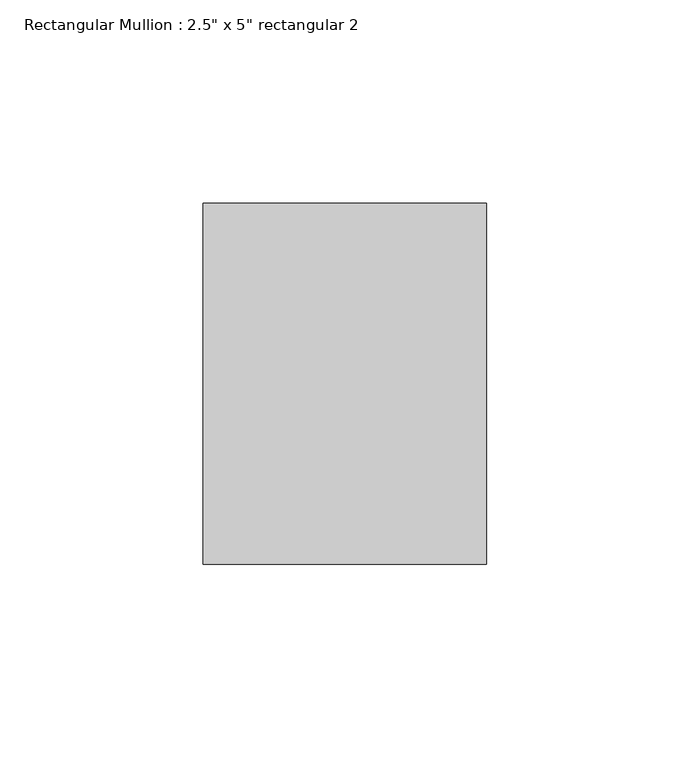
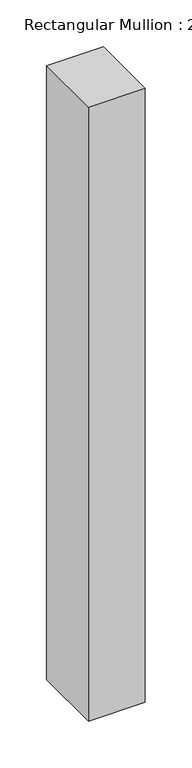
"""IFC4 building model written with IfcOpenShell, lengths in millimetres: member geometry."""

import ifcopenshell
import ifcopenshell.guid

model = None  # the IFC model being written
_history = None  # IfcOwnerHistory: only IFC2X3 demands one
_inside = {}  # id of a spatial element -> (the spatial element, [elements in it])
_under = {}  # id of a project, library or spatial element -> (it, [spatial elements below it])
_declared = {}  # id of a project -> (the project, [libraries it declares])
_typed = {}  # id of a type object -> (the type object, [elements of that type])
_made_of = {}  # id of a material, layer set ... -> (it, [elements and type objects made of it])


def new_model(schema):
    """Start an empty IFC model of exactly this schema.

    Asked for "IFC4X3", IfcOpenShell would pick the latest addendum, in which some entities
    have other attributes; the version numbers below select the first issue.
    IFC2X3 requires an IfcOwnerHistory on every rooted entity: one is made here for all.
    """
    global model, _history
    if schema == "IFC4X3":
        model = ifcopenshell.file(schema_version=(4, 3, 0, 0))
    else:
        model = ifcopenshell.file(schema=schema)
    _inside.clear()
    _under.clear()
    _declared.clear()
    _typed.clear()
    _made_of.clear()
    _history = None
    if model.schema == "IFC2X3":
        org = make("IfcOrganization", Name="unknown")
        user = make(
            "IfcPersonAndOrganization",
            ThePerson=make("IfcPerson", FamilyName="unknown"),
            TheOrganization=org,
        )
        app = make(
            "IfcApplication",
            ApplicationDeveloper=org,
            Version="unknown",
            ApplicationFullName="unknown",
            ApplicationIdentifier="unknown",
        )
        _history = make(
            "IfcOwnerHistory",
            OwningUser=user,
            OwningApplication=app,
            ChangeAction="ADDED",
            CreationDate=0,
        )
    return model


def make(cls, **values):
    """One entity of the class cls with the attributes given. An attribute that is None is left unset."""
    return model.create_entity(
        cls, **{name: value for name, value in values.items() if value is not None}
    )


def rooted(cls, **values):
    """An entity with a GlobalId (a new one), such as an element, a storey or a relation."""
    return make(cls, GlobalId=ifcopenshell.guid.new(), OwnerHistory=_history, **values)


def si_unit(unit_type, name, prefix=None):
    """IfcSIUnit, for example si_unit("LENGTHUNIT", "METRE", prefix="MILLI")."""
    return make("IfcSIUnit", UnitType=unit_type, Prefix=prefix, Name=name)


def assignment(units):
    """IfcUnitAssignment: the units of a project."""
    return None if units is None else make("IfcUnitAssignment", Units=units)


def point(xyz):
    """IfcCartesianPoint."""
    return None if xyz is None else make("IfcCartesianPoint", Coordinates=xyz)


def direction(xyz):
    """IfcDirection."""
    return None if xyz is None else make("IfcDirection", DirectionRatios=xyz)


def frame(location, z_axis=None, x_axis=None):
    """IfcAxis2Placement3D, a coordinate frame: its origin and axes. An axis left out is left unset."""
    return make(
        "IfcAxis2Placement3D",
        Location=point(location),
        Axis=direction(z_axis),
        RefDirection=direction(x_axis),
    )


def origin():
    """The frame at (0, 0, 0) with its axes left unset."""
    return frame((0.0, 0.0, 0.0))


def place(relative_to, where):
    """IfcLocalPlacement: puts the frame where relative to a parent placement (None: the world)."""
    return make(
        "IfcLocalPlacement", PlacementRelTo=relative_to, RelativePlacement=where
    )


def context(
    kind, dimensions, precision=None, world=None, true_north=None, identifier=None
):
    """IfcGeometricRepresentationContext, for example the 3D "Model" context."""
    return make(
        "IfcGeometricRepresentationContext",
        ContextIdentifier=identifier,
        ContextType=kind,
        CoordinateSpaceDimension=dimensions,
        Precision=precision,
        WorldCoordinateSystem=world,
        TrueNorth=true_north,
    )


def project(units=None, contexts=None):
    """IfcProject with its units and contexts."""
    return rooted(
        "IfcProject",
        Name="project",
        RepresentationContexts=contexts,
        UnitsInContext=assignment(units),
    )


def spatial(cls, under=None, at=None, **own):
    """A site, building, storey or space (cls), placed at a placement, below another one or the project."""
    s = rooted(cls, ObjectPlacement=at, **own)
    if under is not None:
        _under.setdefault(under.id(), (under, []))[1].append(s)
    return s


def polyline(points):
    """IfcPolyline through the points."""
    return make("IfcPolyline", Points=[point(p) for p in points])


def outline(outer, holes=None, kind="AREA"):
    """IfcArbitraryClosedProfileDef: a profile drawn as a closed curve; with holes, ...WithVoids."""
    if holes is None:
        return make("IfcArbitraryClosedProfileDef", ProfileType=kind, OuterCurve=outer)
    return make(
        "IfcArbitraryProfileDefWithVoids",
        ProfileType=kind,
        OuterCurve=outer,
        InnerCurves=holes,
    )


def extrude(swept, where, along, depth):
    """IfcExtrudedAreaSolid: the profile swept, set in the frame where, extruded along a direction by depth."""
    return make(
        "IfcExtrudedAreaSolid",
        SweptArea=swept,
        Position=where,
        ExtrudedDirection=direction(along),
        Depth=depth,
    )


def shape(context_of_items, identifier, shape_type, items):
    """IfcShapeRepresentation: the items that make up one representation, for example the "Body"."""
    return make(
        "IfcShapeRepresentation",
        ContextOfItems=context_of_items,
        RepresentationIdentifier=identifier,
        RepresentationType=shape_type,
        Items=items,
    )


def source(mapping_origin, context_of_items, identifier, shape_type, items):
    """IfcRepresentationMap: a shape defined once, which mapped items show again and again."""
    return make(
        "IfcRepresentationMap",
        MappingOrigin=mapping_origin,
        MappedRepresentation=shape(context_of_items, identifier, shape_type, items),
    )


def transform(
    local_origin,
    x_axis=None,
    y_axis=None,
    z_axis=None,
    scale=None,
    scale2=None,
    scale3=None,
    uniform=True,
):
    """IfcCartesianTransformationOperator3D, or its non-uniform kind. x_axis, y_axis, z_axis: its Axis1, 2, 3."""
    if uniform:
        return make(
            "IfcCartesianTransformationOperator3D",
            Axis1=direction(x_axis),
            Axis2=direction(y_axis),
            LocalOrigin=point(local_origin),
            Scale=scale,
            Axis3=direction(z_axis),
        )
    return make(
        "IfcCartesianTransformationOperator3DnonUniform",
        Axis1=direction(x_axis),
        Axis2=direction(y_axis),
        LocalOrigin=point(local_origin),
        Scale=scale,
        Axis3=direction(z_axis),
        Scale2=scale2,
        Scale3=scale3,
    )


def mapped(mapping_source, mapping_target):
    """IfcMappedItem: shows the shape of a source again, moved by a transform."""
    return make(
        "IfcMappedItem", MappingSource=mapping_source, MappingTarget=mapping_target
    )


def made_of(thing, what):
    """Note that an element or type object is made of a material, layer set ...; save() writes the relation."""
    if what is not None:
        _made_of.setdefault(what.id(), (what, []))[1].append(thing)
    return thing


def element(
    cls,
    number,
    at=None,
    inside=None,
    cuts=None,
    type_object=None,
    material=None,
    context=None,
    identifier="Body",
    shape_type=None,
    held_by="IfcProductDefinitionShape",
    body=None,
    shapes=None,
    **own,
):
    """One element of the class cls, such as IfcWall. Its Tag is "e" and its number.

    at: its placement. inside: the storey or other place that contains it. cuts: it is an
    opening in that element (IfcRelVoidsElement). A single representation is given by context,
    identifier, shape_type and body (its items); several are given by shapes. held_by: the class
    of the entity that holds the representations. save() writes the other relations.
    """
    e = rooted(cls, Tag="e%d" % number, ObjectPlacement=at, **own)
    if body is not None:
        shapes = [shape(context, identifier, shape_type, body)]
    if shapes is not None:
        e.Representation = make(held_by, Representations=shapes)
    if inside is not None:
        _inside.setdefault(inside.id(), (inside, []))[1].append(e)
    if cuts is not None:
        rooted(
            "IfcRelVoidsElement", RelatingBuildingElement=cuts, RelatedOpeningElement=e
        )
    if type_object is not None:
        _typed.setdefault(type_object.id(), (type_object, []))[1].append(e)
    return made_of(e, material)


def aggregate(whole, parts):
    """IfcRelAggregates: a whole, such as a stair, and the parts it consists of."""
    return rooted("IfcRelAggregates", RelatingObject=whole, RelatedObjects=parts)


def save(model, path):
    """Write the relations noted so far, then the file.

    IfcRelAggregates (storeys below a building ...), IfcRelContainedInSpatialStructure (elements
    in a storey), IfcRelDefinesByType, IfcRelAssociatesMaterial and IfcRelDeclares: one each for
    every whole, place, type object, material and project.
    """
    for whole, parts in _under.values():
        aggregate(whole, parts)
    for where, things in _inside.values():
        rooted(
            "IfcRelContainedInSpatialStructure",
            RelatedElements=things,
            RelatingStructure=where,
        )
    for kind, things in _typed.values():
        rooted("IfcRelDefinesByType", RelatedObjects=things, RelatingType=kind)
    for what, things in _made_of.values():
        rooted("IfcRelAssociatesMaterial", RelatedObjects=things, RelatingMaterial=what)
    for by, libraries in _declared.values():
        rooted("IfcRelDeclares", RelatingContext=by, RelatedDefinitions=libraries)
    model.write(path)


def member_f4af639a(model_context):
    return source(origin(), model_context, "Body", "SweptSolid", [
        extrude(outline(polyline([(0.0, 44.45), (0.0, -44.45), (-69.85, -44.45), (-69.85, 44.45), (0.0, 44.45)])), frame((0.0, 0.0, -798.2080049), z_axis=(0.0, 0.0, 1.0), x_axis=(1.0, 0.0, 0.0)), (0.0, 0.0, 1.0), 798.2080049),
    ])


if __name__ == "__main__":
    model = new_model("IFC4")
    model_context = context("Model", 3, world=origin())
    ifc_project = project(units=[si_unit("LENGTHUNIT", "METRE", prefix="MILLI")], contexts=[model_context])
    site = spatial("IfcSite", under=ifc_project)
    building = spatial("IfcBuilding", under=site)
    placement = place(None, origin())
    member_shape = member_f4af639a(model_context)
    element("IfcMember", 1, ObjectType="Rectangular Mullion : 2.5\" x 5\" rectangular 2", at=placement, inside=building, context=model_context, shape_type="MappedRepresentation", body=[
        mapped(member_shape, transform((0.0, 0.0, 0.0), x_axis=(1.0, 0.0, 0.0), y_axis=(0.0, 1.0, 0.0), z_axis=(0.0, 0.0, 1.0))),
    ])
    save(model, "model.ifc")
